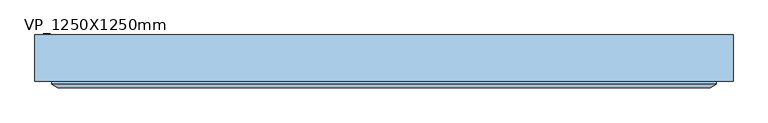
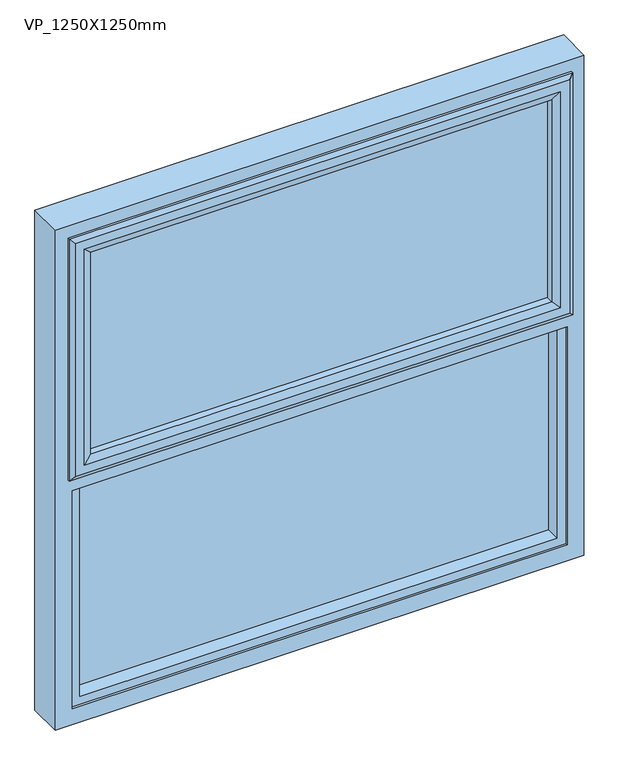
"""IFC4 building model written with IfcOpenShell, lengths in millimetres: window geometry, VENTANA_PROY_2HOJAS_HOR : VP_1250X1250mm."""

from ifc_helpers import new_model, si_unit, frame, origin, place, context, project, spatial, polyline, outline, extrude, faceted_brep, source, transform, mapped, element, save


def vp_1250x1250mm_1945258d(model_context):
    return source(origin(), model_context, "Body", "SolidModel", [
        extrude(outline(polyline([(1455.0, 565.0), (920.0, 565.0), (920.0, -565.0), (1455.0, -565.0), (1455.0, -585.0), (900.0, -585.0), (900.0, 585.0), (1455.0, 585.0), (1455.0, 565.0)])), frame((0.0, -103.4565678, 0.0), z_axis=(0.0, 1.0, 0.0), x_axis=(0.0, 0.0, 1.0)), (0.0, 0.0, 1.0), 36.0),
        extrude(outline(polyline([(585.0, -43.4565678), (585.0, -67.4565678), (-585.0, -67.4565678), (-585.0, -43.4565678), (585.0, -43.4565678)])), frame((0.0, 0.0, 920.0), z_axis=(0.0, 0.0, 1.0), x_axis=(1.0, 0.0, 0.0)), (0.0, 0.0, 1.0), 535.0),
        faceted_brep([(-625.0, -108.4565678, 2110.0), (625.0, -108.4565678, 2110.0), (625.0, -25.4565678, 2110.0), (-625.0, -25.4565678, 2110.0), (-585.0, -43.4565678, 2070.0), (585.0, -43.4565678, 2070.0), (585.0, -108.4565678, 2070.0), (-585.0, -108.4565678, 2070.0), (-565.0, -25.4565678, 2050.0), (565.0, -25.4565678, 2050.0), (565.0, -43.4565678, 2050.0), (-565.0, -43.4565678, 2050.0), (625.0, -108.4565678, 860.0), (625.0, -25.4565678, 860.0), (585.0, -43.4565678, 1485.0), (585.0, -108.4565678, 1485.0), (585.0, -108.4565678, 900.0), (585.0, -108.4565678, 1445.0), (585.0, -67.4565678, 1445.0), (585.0, -67.4565678, 1455.0), (585.0, -43.4565678, 1455.0), (585.0, -43.4565678, 900.0), (565.0, -25.4565678, 1503.0), (565.0, -43.4565678, 1503.0), (565.0, -43.4565678, 920.0), (565.0, -43.4565678, 1445.0), (565.0, -25.4565678, 1445.0), (565.0, -25.4565678, 920.0), (-625.0, -25.4565678, 860.0), (-565.0, -25.4565678, 920.0), (-565.0, -25.4565678, 1445.0), (-565.0, -25.4565678, 1503.0), (-625.0, -108.4565678, 860.0), (-585.0, -108.4565678, 1485.0), (-585.0, -108.4565678, 900.0), (-585.0, -108.4565678, 1445.0), (-585.0, -43.4565678, 900.0), (-585.0, -43.4565678, 1455.0), (-565.0, -43.4565678, 920.0), (-565.0, -43.4565678, 1445.0), (-585.0, -43.4565678, 1485.0), (-565.0, -43.4565678, 1503.0), (-585.0, -67.4565678, 1455.0), (-585.0, -67.4565678, 1445.0)], [[[0, 1, 2, 3]], [[4, 5, 6, 7]], [[8, 9, 10, 11]], [[1, 12, 13, 2]], [[14, 15, 6, 5]], [[16, 17, 18, 19, 20, 21]], [[9, 22, 23, 10]], [[24, 25, 26, 27]], [[2, 13, 28, 3], [29, 27, 26, 30], [8, 31, 22, 9]], [[12, 32, 28, 13]], [[0, 32, 12, 1], [6, 15, 33, 7], [16, 34, 35, 17]], [[21, 36, 34, 16]], [[21, 20, 37, 36], [24, 38, 39, 25]], [[4, 40, 14, 5], [11, 10, 23, 41]], [[27, 29, 38, 24]], [[3, 28, 32, 0]], [[7, 33, 40, 4]], [[37, 42, 43, 35, 34, 36]], [[29, 30, 39, 38]], [[11, 41, 31, 8]], [[42, 37, 20, 19]], [[19, 18, 43, 42]], [[18, 17, 35, 43]], [[15, 14, 40, 33]], [[31, 41, 23, 22]], [[26, 25, 39, 30]]]),
        extrude(outline(polyline([(555.0, -72.4565678), (555.0, -96.4565678), (-555.0, -96.4565678), (-555.0, -72.4565678), (555.0, -72.4565678)])), frame((0.0, 0.0, 1515.0), z_axis=(0.0, 0.0, 1.0), x_axis=(1.0, 0.0, 0.0)), (0.0, 0.0, 1.0), 525.0),
        faceted_brep([(-595.0, -108.4565678, 2080.0), (-595.0, -108.4565678, 1475.0), (-595.0, -114.2300705, 1475.0), (-595.0, -114.2300705, 2080.0), (-585.0, -43.4565678, 2070.0), (-585.0, -43.4565678, 1485.0), (-585.0, -108.4565678, 1485.0), (-585.0, -108.4565678, 2070.0), (-545.0, -57.9494677, 2030.0), (-545.0, -57.9494677, 1525.0), (-555.1480377, -43.4565678, 1514.8519623), (-555.1480377, -43.4565678, 2040.1480377), (-545.0, -72.4565678, 2030.0), (-545.0, -72.4565678, 1525.0), (-555.0, -96.4565678, 2040.0), (-555.0, -96.4565678, 1515.0), (-555.0, -72.4565678, 1515.0), (-555.0, -72.4565678, 2040.0), (-545.0, -114.2300705, 2030.0), (-545.0, -114.2300705, 1525.0), (-545.0, -96.4565678, 1525.0), (-545.0, -96.4565678, 2030.0), (-562.4457548, -120.0035732, 2047.4457548), (-562.4457548, -120.0035732, 1507.5542452), (-584.2153903, -120.0035732, 1485.7846097), (-584.2153903, -120.0035732, 2069.2153903), (595.0, -108.4565678, 1475.0), (595.0, -114.2300705, 1475.0), (585.0, -43.4565678, 1485.0), (585.0, -108.4565678, 1485.0), (545.0, -57.9494677, 1525.0), (555.1480377, -43.4565678, 1514.8519623), (545.0, -72.4565678, 1525.0), (555.0, -96.4565678, 1515.0), (555.0, -72.4565678, 1515.0), (545.0, -114.2300705, 1525.0), (545.0, -96.4565678, 1525.0), (562.4457548, -120.0035732, 1507.5542452), (584.2153903, -120.0035732, 1485.7846097), (595.0, -108.4565678, 2080.0), (595.0, -114.2300705, 2080.0), (585.0, -43.4565678, 2070.0), (585.0, -108.4565678, 2070.0), (545.0, -57.9494677, 2030.0), (555.1480377, -43.4565678, 2040.1480377), (545.0, -72.4565678, 2030.0), (555.0, -96.4565678, 2040.0), (555.0, -72.4565678, 2040.0), (545.0, -114.2300705, 2030.0), (545.0, -96.4565678, 2030.0), (562.4457548, -120.0035732, 2047.4457548), (584.2153903, -120.0035732, 2069.2153903)], [[[0, 1, 2, 3]], [[4, 5, 6, 7]], [[8, 9, 10, 11]], [[12, 13, 9, 8]], [[14, 15, 16, 17]], [[18, 19, 20, 21]], [[22, 23, 19, 18]], [[3, 2, 24, 25]], [[1, 26, 27, 2]], [[5, 28, 29, 6]], [[9, 30, 31, 10]], [[13, 32, 30, 9]], [[15, 33, 34, 16]], [[19, 35, 36, 20]], [[23, 37, 35, 19]], [[2, 27, 38, 24]], [[26, 39, 40, 27]], [[28, 41, 42, 29]], [[30, 43, 44, 31]], [[32, 45, 43, 30]], [[33, 46, 47, 34]], [[35, 48, 49, 36]], [[37, 50, 48, 35]], [[27, 40, 51, 38]], [[39, 0, 3, 40]], [[1, 0, 39, 26], [7, 6, 29, 42]], [[41, 4, 7, 42]], [[5, 4, 41, 28], [11, 10, 31, 44]], [[43, 8, 11, 44]], [[45, 12, 8, 43]], [[17, 16, 34, 47], [13, 12, 45, 32]], [[46, 14, 17, 47]], [[15, 14, 46, 33], [21, 20, 36, 49]], [[48, 18, 21, 49]], [[50, 22, 18, 48]], [[25, 24, 38, 51], [23, 22, 50, 37]], [[40, 3, 25, 51]]]),
    ])


if __name__ == "__main__":
    model = new_model("IFC4")
    model_context = context("Model", 3, world=origin())
    ifc_project = project(units=[si_unit("LENGTHUNIT", "METRE", prefix="MILLI")], contexts=[model_context])
    site = spatial("IfcSite", under=ifc_project)
    building = spatial("IfcBuilding", under=site)
    placement = place(None, origin())
    vp_1250x1250mm_shape = vp_1250x1250mm_1945258d(model_context)
    element("IfcWindow", 1, ObjectType="VENTANA_PROY_2HOJAS_HOR : VP_1250X1250mm", at=placement, inside=building, context=model_context, shape_type="MappedRepresentation", body=[
        mapped(vp_1250x1250mm_shape, transform((0.0, 0.0, 0.0), x_axis=(1.0, 0.0, 0.0), y_axis=(0.0, 1.0, 0.0), z_axis=(0.0, 0.0, 1.0))),
    ])
    save(model, "model.ifc")
